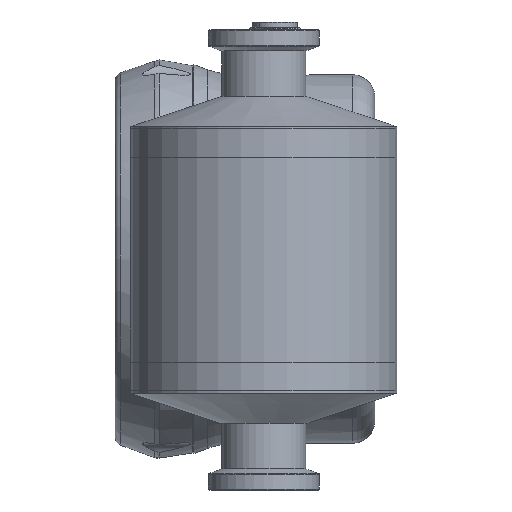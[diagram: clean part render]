
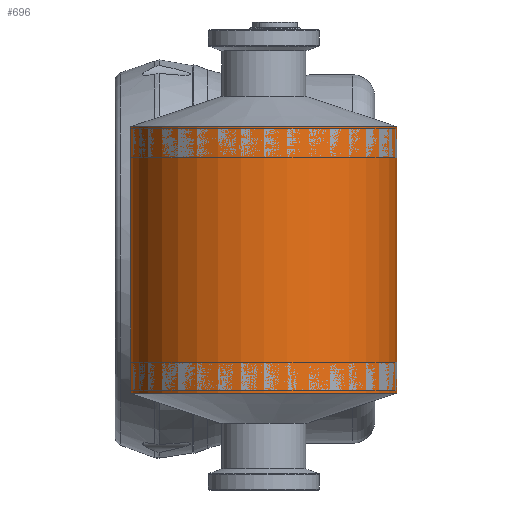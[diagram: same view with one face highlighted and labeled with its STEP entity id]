
A CAD part, front view. The second image highlights one B-rep face of the part: STEP entity #696.
In plain terms, the highlighted cylindrical face has radius 30 mm (diameter 60 mm), a full revolution.
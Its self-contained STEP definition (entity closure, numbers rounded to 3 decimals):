
#63=LINE('',#4225,#112);
#64=LINE('',#4229,#113);
#112=VECTOR('',#3376,1.);
#113=VECTOR('',#3379,1.);
#162=B_SPLINE_CURVE_WITH_KNOTS('',3,(#4231,#4232,#4233,#4234,#4235,#4236,
#4237,#4238,#4239,#4240),.UNSPECIFIED.,.F.,.F.,(4,2,2,2,4),(0.,0.25,0.5,
0.75,1.),.UNSPECIFIED.);
#163=B_SPLINE_CURVE_WITH_KNOTS('',3,(#4242,#4243,#4244,#4245,#4246,#4247,
#4248,#4249,#4250,#4251),.UNSPECIFIED.,.F.,.F.,(4,2,2,2,4),(0.,0.25,0.5,
0.75,1.),.UNSPECIFIED.);
#425=CYLINDRICAL_SURFACE('',#2958,30.);
#515=FACE_BOUND('',#1071,.T.);
#516=FACE_BOUND('',#1072,.T.);
#517=FACE_BOUND('',#1073,.T.);
#696=ADVANCED_FACE('',(#515,#516,#517),#425,.T.);
#1071=EDGE_LOOP('',(#1378,#1379,#1380,#1381));
#1072=EDGE_LOOP('',(#1382));
#1073=EDGE_LOOP('',(#1383));
#1378=ORIENTED_EDGE('',*,*,#2374,.F.);
#1379=ORIENTED_EDGE('',*,*,#2373,.T.);
#1380=ORIENTED_EDGE('',*,*,#2375,.T.);
#1381=ORIENTED_EDGE('',*,*,#2371,.T.);
#1382=ORIENTED_EDGE('',*,*,#2376,.F.);
#1383=ORIENTED_EDGE('',*,*,#2377,.T.);
#2096=VERTEX_POINT('',#4223);
#2097=VERTEX_POINT('',#4224);
#2098=VERTEX_POINT('',#4226);
#2099=VERTEX_POINT('',#4228);
#2100=VERTEX_POINT('',#4253);
#2101=VERTEX_POINT('',#4255);
#2371=EDGE_CURVE('',#2098,#2097,#63,.T.);
#2373=EDGE_CURVE('',#2096,#2099,#64,.T.);
#2374=EDGE_CURVE('',#2096,#2097,#162,.T.);
#2375=EDGE_CURVE('',#2099,#2098,#163,.T.);
#2376=EDGE_CURVE('',#2100,#2100,#2738,.T.);
#2377=EDGE_CURVE('',#2101,#2101,#2739,.T.);
#2738=CIRCLE('',#2956,30.);
#2739=CIRCLE('',#2957,30.);
#2956=AXIS2_PLACEMENT_3D('',#4252,#3384,#3385);
#2957=AXIS2_PLACEMENT_3D('',#4254,#3386,#3387);
#2958=AXIS2_PLACEMENT_3D('',#4256,#3388,#3389);
#3376=DIRECTION('',(0.,0.,1.));
#3379=DIRECTION('',(0.,0.,-1.));
#3384=DIRECTION('',(0.,0.,1.));
#3385=DIRECTION('',(1.,0.,0.));
#3386=DIRECTION('',(0.,0.,1.));
#3387=DIRECTION('',(1.,0.,0.));
#3388=DIRECTION('',(0.,0.,-1.));
#3389=DIRECTION('',(-1.,0.,0.));
#4223=CARTESIAN_POINT('',(-7.77,26.,4.031));
#4224=CARTESIAN_POINT('',(13.77,26.,4.031));
#4225=CARTESIAN_POINT('',(13.77,26.,-4.031));
#4226=CARTESIAN_POINT('',(13.77,26.,-4.031));
#4228=CARTESIAN_POINT('',(-7.77,26.,-4.031));
#4229=CARTESIAN_POINT('',(-7.77,26.,17.));
#4231=CARTESIAN_POINT('',(-7.77,26.,4.031));
#4232=CARTESIAN_POINT('',(-7.104,26.256,6.542));
#4233=CARTESIAN_POINT('',(-5.82,26.736,8.84));
#4234=CARTESIAN_POINT('',(-2.148,27.615,12.317));
#4235=CARTESIAN_POINT('',(0.38,27.997,13.491));
#4236=CARTESIAN_POINT('',(5.555,28.003,13.509));
#4237=CARTESIAN_POINT('',(8.092,27.627,12.36));
#4238=CARTESIAN_POINT('',(11.827,26.736,8.843));
#4239=CARTESIAN_POINT('',(13.103,26.257,6.547));
#4240=CARTESIAN_POINT('',(13.77,26.,4.031));
#4242=CARTESIAN_POINT('',(-7.77,26.,-4.031));
#4243=CARTESIAN_POINT('',(-7.104,26.256,-6.542));
#4244=CARTESIAN_POINT('',(-5.82,26.736,-8.84));
#4245=CARTESIAN_POINT('',(-2.148,27.615,-12.317));
#4246=CARTESIAN_POINT('',(0.38,27.997,-13.491));
#4247=CARTESIAN_POINT('',(5.555,28.003,-13.509));
#4248=CARTESIAN_POINT('',(8.092,27.627,-12.36));
#4249=CARTESIAN_POINT('',(11.827,26.736,-8.843));
#4250=CARTESIAN_POINT('',(13.103,26.257,-6.547));
#4251=CARTESIAN_POINT('',(13.77,26.,-4.031));
#4252=CARTESIAN_POINT('',(3.,-2.,30.));
#4253=CARTESIAN_POINT('',(33.,-2.,30.));
#4254=CARTESIAN_POINT('',(3.,-2.,-30.));
#4255=CARTESIAN_POINT('',(33.,-2.,-30.));
#4256=CARTESIAN_POINT('',(3.,-2.,17.));
